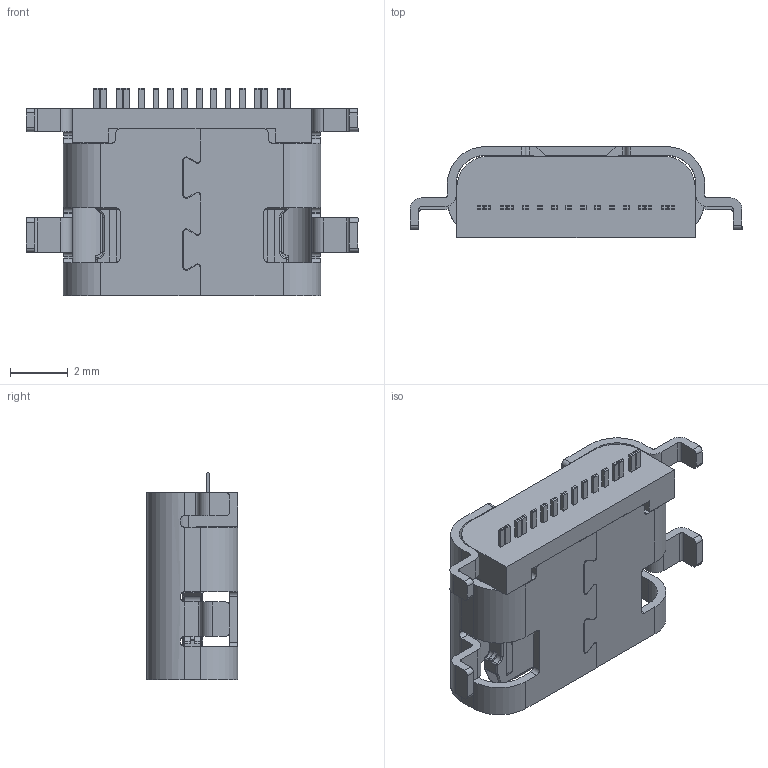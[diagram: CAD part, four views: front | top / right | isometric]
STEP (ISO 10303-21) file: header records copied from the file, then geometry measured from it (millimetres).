
FILE_DESCRIPTION (( 'STEP AP203' ), '1' );
FILE_NAME ('U5090-16PN1.0C6.5L.step', '2026-09-08T06:25:42', ( '' ), ( '' ), 'SwSTEP 2.0', 'SolidWorks 2024', '' );
FILE_SCHEMA (( 'CONFIG_CONTROL_DESIGN' ));
Length unit declared in the file: millimetre
Products named in the file (1): U5090-16PN1.0C6.5L
Bounding box: 11.54 x 3.19 x 7.2 mm (x, y, z)
Volume: 99 mm3; surface area: 437.7 mm2
Topology: 4 solids, 4 shells, 694 faces, 1926 edges, 1254 vertices
Faces by surface type: plane 471, cylinder 174, bspline 41, cone 8
Entity records: 24123 total; most frequent: CARTESIAN_POINT 6454, ORIENTED_EDGE 3844, DIRECTION 3394, EDGE_CURVE 1922, LINE 1458, VECTOR 1458, VERTEX_POINT 1254, AXIS2_PLACEMENT_3D 968
